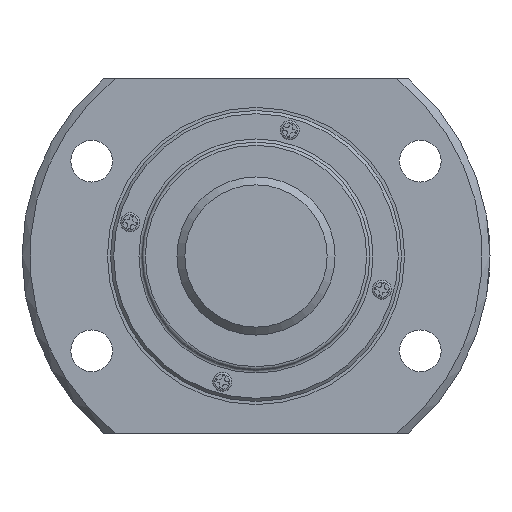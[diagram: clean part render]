
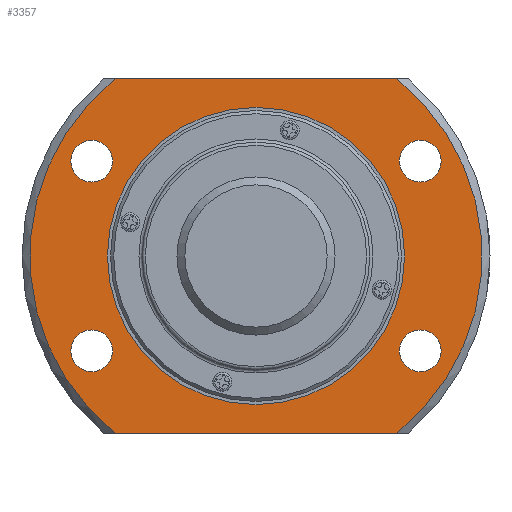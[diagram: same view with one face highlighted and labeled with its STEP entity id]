
A CAD part, left-side view. The second image highlights one B-rep face of the part: STEP entity #3357.
In plain terms, the highlighted planar face has unit normal (-1, 0, 0).
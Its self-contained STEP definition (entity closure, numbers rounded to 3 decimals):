
#37=LINE('',#5046,#365);
#38=LINE('',#5047,#366);
#365=VECTOR('',#3997,1000.);
#366=VECTOR('',#3998,1000.);
#721=PLANE('',#3606);
#885=ORIENTED_EDGE('',*,*,#1817,.T.);
#886=ORIENTED_EDGE('',*,*,#1818,.T.);
#887=ORIENTED_EDGE('',*,*,#1819,.T.);
#888=ORIENTED_EDGE('',*,*,#1820,.T.);
#889=ORIENTED_EDGE('',*,*,#1821,.T.);
#890=ORIENTED_EDGE('',*,*,#1812,.F.);
#891=ORIENTED_EDGE('',*,*,#1822,.T.);
#892=ORIENTED_EDGE('',*,*,#1815,.F.);
#893=ORIENTED_EDGE('',*,*,#1823,.T.);
#1812=EDGE_CURVE('',#2278,#2279,#2607,.T.);
#1815=EDGE_CURVE('',#2280,#2281,#2608,.T.);
#1817=EDGE_CURVE('',#2282,#2282,#2609,.T.);
#1818=EDGE_CURVE('',#2283,#2283,#2610,.T.);
#1819=EDGE_CURVE('',#2284,#2284,#2611,.T.);
#1820=EDGE_CURVE('',#2285,#2285,#2612,.T.);
#1821=EDGE_CURVE('',#2286,#2286,#2613,.T.);
#1822=EDGE_CURVE('',#2278,#2281,#37,.T.);
#1823=EDGE_CURVE('',#2280,#2279,#38,.T.);
#2278=VERTEX_POINT('',#5016);
#2279=VERTEX_POINT('',#5018);
#2280=VERTEX_POINT('',#5028);
#2281=VERTEX_POINT('',#5030);
#2282=VERTEX_POINT('',#5037);
#2283=VERTEX_POINT('',#5039);
#2284=VERTEX_POINT('',#5041);
#2285=VERTEX_POINT('',#5043);
#2286=VERTEX_POINT('',#5045);
#2607=CIRCLE('',#3603,35.767);
#2608=CIRCLE('',#3605,35.767);
#2609=CIRCLE('',#3607,23.5);
#2610=CIRCLE('',#3608,3.3);
#2611=CIRCLE('',#3609,3.3);
#2612=CIRCLE('',#3610,3.3);
#2613=CIRCLE('',#3611,3.3);
#2747=EDGE_LOOP('',(#885));
#2748=EDGE_LOOP('',(#886));
#2749=EDGE_LOOP('',(#887));
#2750=EDGE_LOOP('',(#888));
#2751=EDGE_LOOP('',(#889));
#2752=EDGE_LOOP('',(#890,#891,#892,#893));
#3027=FACE_BOUND('',#2747,.T.);
#3028=FACE_BOUND('',#2748,.T.);
#3029=FACE_BOUND('',#2749,.T.);
#3030=FACE_BOUND('',#2750,.T.);
#3031=FACE_BOUND('',#2751,.T.);
#3032=FACE_BOUND('',#2752,.T.);
#3357=ADVANCED_FACE('',(#3027,#3028,#3029,#3030,#3031,#3032),#721,.T.);
#3603=AXIS2_PLACEMENT_3D('',#5017,#3979,#3980);
#3605=AXIS2_PLACEMENT_3D('',#5029,#3983,#3984);
#3606=AXIS2_PLACEMENT_3D('',#5035,#3985,#3986);
#3607=AXIS2_PLACEMENT_3D('',#5036,#3987,#3988);
#3608=AXIS2_PLACEMENT_3D('',#5038,#3989,#3990);
#3609=AXIS2_PLACEMENT_3D('',#5040,#3991,#3992);
#3610=AXIS2_PLACEMENT_3D('',#5042,#3993,#3994);
#3611=AXIS2_PLACEMENT_3D('',#5044,#3995,#3996);
#3979=DIRECTION('',(1.,0.,0.));
#3980=DIRECTION('',(0.,0.,-1.));
#3983=DIRECTION('',(1.,0.,0.));
#3984=DIRECTION('',(0.,0.,-1.));
#3985=DIRECTION('',(-1.,0.,0.));
#3986=DIRECTION('',(0.,0.,1.));
#3987=DIRECTION('',(1.,0.,0.));
#3988=DIRECTION('',(0.,0.,-1.));
#3989=DIRECTION('',(1.,0.,0.));
#3990=DIRECTION('',(0.,0.,-1.));
#3991=DIRECTION('',(1.,0.,0.));
#3992=DIRECTION('',(0.,0.,-1.));
#3993=DIRECTION('',(1.,0.,0.));
#3994=DIRECTION('',(0.,0.,-1.));
#3995=DIRECTION('',(1.,0.,0.));
#3996=DIRECTION('',(0.,0.,-1.));
#3997=DIRECTION('',(0.,1.,0.));
#3998=DIRECTION('',(0.,-1.,0.));
#5016=CARTESIAN_POINT('',(8.,-22.254,28.));
#5017=CARTESIAN_POINT('',(8.,0.,0.));
#5018=CARTESIAN_POINT('',(8.,-22.254,-28.));
#5028=CARTESIAN_POINT('',(8.,22.254,-28.));
#5029=CARTESIAN_POINT('',(8.,0.,0.));
#5030=CARTESIAN_POINT('',(8.,22.254,28.));
#5035=CARTESIAN_POINT('',(8.,35.767,0.));
#5036=CARTESIAN_POINT('',(8.,0.,0.));
#5037=CARTESIAN_POINT('',(8.,0.,-23.5));
#5038=CARTESIAN_POINT('',(8.,-25.981,15.));
#5039=CARTESIAN_POINT('',(8.,-25.981,11.7));
#5040=CARTESIAN_POINT('',(8.,25.981,-15.));
#5041=CARTESIAN_POINT('',(8.,25.981,-18.3));
#5042=CARTESIAN_POINT('',(8.,-25.981,-15.));
#5043=CARTESIAN_POINT('',(8.,-25.981,-18.3));
#5044=CARTESIAN_POINT('',(8.,25.981,15.));
#5045=CARTESIAN_POINT('',(8.,25.981,11.7));
#5046=CARTESIAN_POINT('',(8.,35.767,28.));
#5047=CARTESIAN_POINT('',(8.,35.767,-28.));
